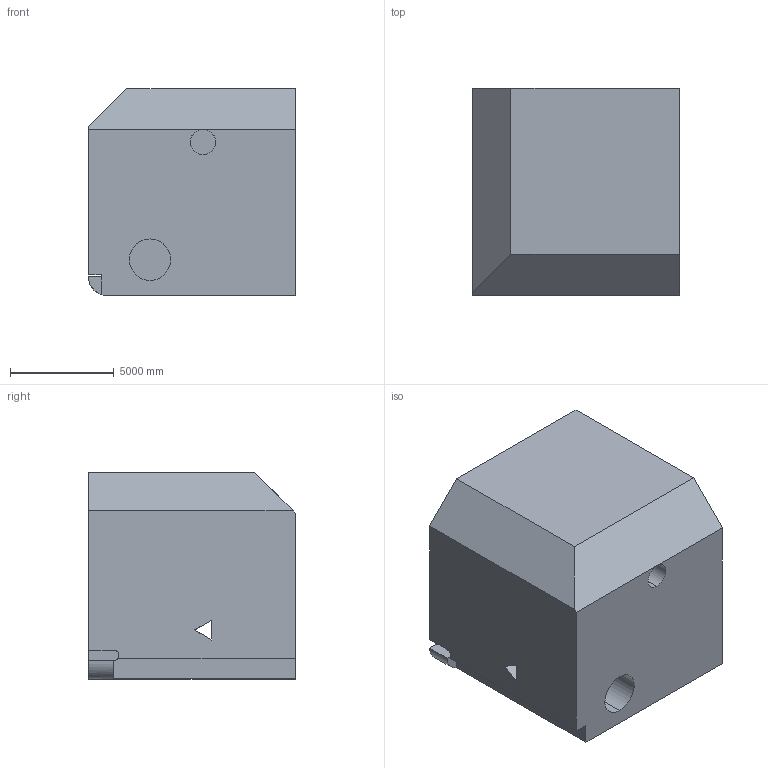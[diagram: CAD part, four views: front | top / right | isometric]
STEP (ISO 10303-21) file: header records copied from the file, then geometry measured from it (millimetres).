
FILE_DESCRIPTION (( 'STEP AP203' ), '1' );
FILE_NAME ('171.STEP', '2022-09-06T14:40:15', ( 'user' ), ( '' ), 'SwSTEP 2.0', 'SolidWorks 2021', '' );
FILE_SCHEMA (( 'CONFIG_CONTROL_DESIGN' ));
Length unit declared in the file: centimetre
Products named in the file (1): 171
Bounding box: 10000 x 10000 x 10000 mm (x, y, z)
Volume: 925311777494.1 mm3; surface area: 664625930 mm2
Topology: 1 solids, 1 shells, 27 faces, 78 edges, 52 vertices
Faces by surface type: plane 21, cylinder 6
Entity records: 973 total; most frequent: CARTESIAN_POINT 176, ORIENTED_EDGE 156, DIRECTION 144, EDGE_CURVE 78, LINE 56, VECTOR 56, VERTEX_POINT 52, AXIS2_PLACEMENT_3D 44
